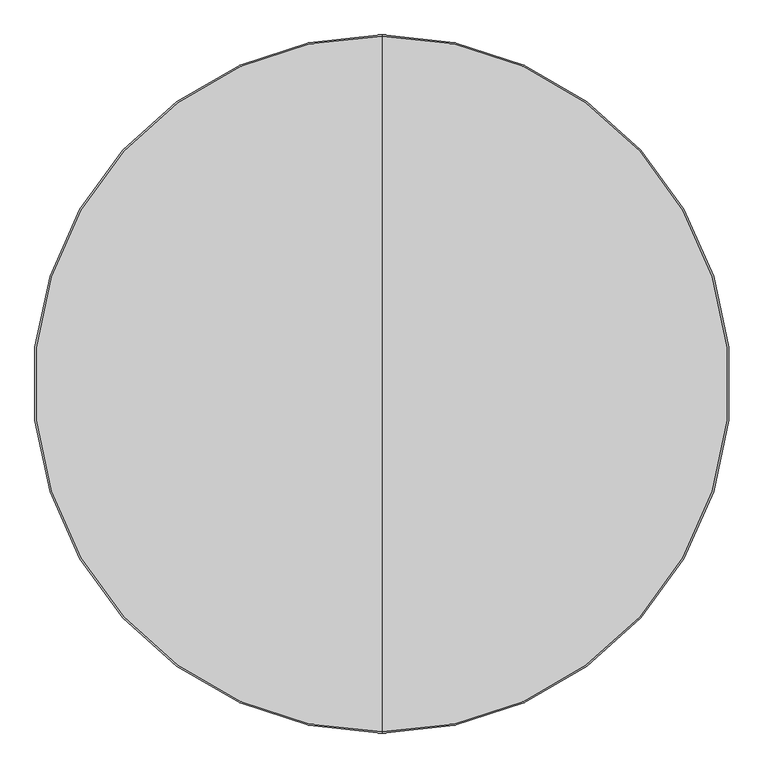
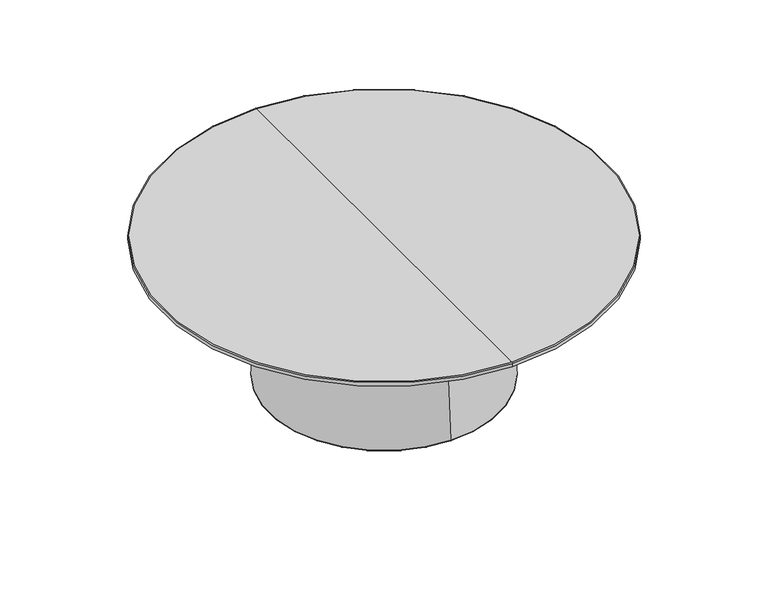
"""IFC4 building model written with IfcOpenShell, lengths in millimetres: furniture geometry, Fredericia - Niveau Coffee Table Ø110 - 6811 : Fredericia - Niveau Coffee Table Ø110 - 6811."""

from ifc_helpers import new_model, si_unit, point, frame, origin, origin_2d, place, context, project, spatial, polyline, circle_curve, ellipse_curve, trimmed, segment, composite_curve, outline, extrude, source, transform, mapped, element, save
from ifc_brep_helpers import plane_surface, cylinder_surface, revolved_surface, advanced_brep


def furniture_b57356bb(model_context):
    return source(origin(), model_context, "Body", "SolidModel", [
        extrude(outline(composite_curve([segment(trimmed(circle_curve(origin_2d(), 300.0), [point((-300.0, 0.0))], [point((300.0, 0.0))], False, "CARTESIAN"), True, "CONTINUOUS"), segment(trimmed(circle_curve(origin_2d(), 300.0), [point((300.0, 0.0))], [point((-300.0, 0.0))], False, "CARTESIAN"), True, "CONTINUOUS")], self_intersect=False)), frame((0.0, 0.0, 351.8), z_axis=(0.0, 0.0, 1.0), x_axis=(1.0, 0.0, 0.0)), (0.0, 0.0, 1.0), 5.0),
        advanced_brep(
        [(0.0, -271.4422915, 2.4564436), (0.0, 271.4422915, 2.4564436), (0.0, 270.6035022, 2.2), (0.0, -270.6035022, 2.2), (0.0, -284.9166947, 11.5450434), (0.0, 284.9166947, 11.5450434), (0.0, -285.793704, 13.3387594), (0.0, 285.793704, 13.3387594), (0.0, -269.1134362, 258.7199826), (0.0, 269.1134362, 258.7199826), (0.0, 214.2419305, 2.2), (0.0, -214.2419305, 2.2), (0.0, -268.4802606, 277.3706032), (0.0, 268.4802606, 277.3706032), (0.0, -268.4802606, 351.8), (0.0, 268.4802606, 351.8), (0.0, -196.1713082, 351.8), (0.0, 196.1713082, 351.8), (0.0, -196.1713082, 277.3706032), (0.0, 196.1713082, 277.3706032), (0.0, -196.8044838, 258.7199826), (0.0, 196.8044838, 258.7199826)],
        [
            (0, 1, circle_curve(frame((0.0, 0.0, 2.4564436), z_axis=(0.0, 0.0, -1.0), x_axis=(0.0, 1.0, 0.0)), 271.4422915)),
            (1, 2, circle_curve(frame((0.0, 270.6035022, 3.7), z_axis=(-1.0, 0.0, 0.0), x_axis=(0.0, -1.0, 0.0)), 1.5)),
            (2, 3, circle_curve(frame((0.0, 0.0, 2.2), z_axis=(0.0, 0.0, 1.0), x_axis=(0.0, 1.0, 0.0)), 270.6035022)),
            (3, 0, circle_curve(frame((0.0, -270.6035022, 3.7), z_axis=(-1.0, 0.0, 0.0), x_axis=(0.0, 1.0, 0.0)), 1.5)),
            (1, 0, circle_curve(frame((0.0, 0.0, 2.4564436), z_axis=(0.0, 0.0, -1.0), x_axis=(0.0, 1.0, 0.0)), 271.4422915)),
            (3, 2, circle_curve(frame((0.0, 0.0, 2.2), z_axis=(0.0, 0.0, 1.0), x_axis=(0.0, 1.0, 0.0)), 270.6035022)),
            (4, 5, circle_curve(frame((0.0, 0.0, 11.5450434), z_axis=(0.0, 0.0, -1.0), x_axis=(0.0, 1.0, 0.0)), 284.9166947)),
            (5, 1),
            (0, 4),
            (5, 4, circle_curve(frame((0.0, 0.0, 11.5450434), z_axis=(0.0, 0.0, -1.0), x_axis=(0.0, 1.0, 0.0)), 284.9166947)),
            (6, 7, circle_curve(frame((0.0, 0.0, 13.3387594), z_axis=(0.0, 0.0, -1.0), x_axis=(0.0, 1.0, 0.0)), 285.793704)),
            (7, 5, circle_curve(frame((0.0, 283.7983089, 13.2031185), z_axis=(-1.0, 0.0, 0.0), x_axis=(0.0, -1.0, 0.0)), 2.0)),
            (4, 6, circle_curve(frame((0.0, -283.7983089, 13.2031185), z_axis=(-1.0, 0.0, 0.0), x_axis=(0.0, 1.0, 0.0)), 2.0)),
            (7, 6, circle_curve(frame((0.0, 0.0, 13.3387594), z_axis=(0.0, 0.0, -1.0), x_axis=(0.0, 1.0, 0.0)), 285.793704)),
            (8, 9, circle_curve(frame((0.0, 0.0, 258.7199826), z_axis=(0.0, 0.0, -1.0), x_axis=(0.0, 1.0, 0.0)), 269.1134362)),
            (9, 7),
            (6, 8),
            (9, 8, circle_curve(frame((0.0, 0.0, 258.7199826), z_axis=(0.0, 0.0, -1.0), x_axis=(0.0, 1.0, 0.0)), 269.1134362)),
            (2, 10),
            (10, 11, circle_curve(frame((0.0, 0.0, 2.2), z_axis=(0.0, 0.0, 1.0), x_axis=(0.0, 1.0, 0.0)), 214.2419305)),
            (11, 3),
            (11, 10, circle_curve(frame((0.0, 0.0, 2.2), z_axis=(0.0, 0.0, 1.0), x_axis=(0.0, 1.0, 0.0)), 214.2419305)),
            (12, 13, circle_curve(frame((0.0, 0.0, 277.3706032), z_axis=(0.0, 0.0, -1.0), x_axis=(0.0, 1.0, 0.0)), 268.4802606)),
            (13, 9, circle_curve(frame((0.0, 543.4802606, 277.3706032), z_axis=(1.0, 0.0, 0.0), x_axis=(0.0, -1.0, 0.0)), 275.0)),
            (8, 12, circle_curve(frame((0.0, -543.4802606, 277.3706032), z_axis=(1.0, 0.0, 0.0), x_axis=(0.0, 1.0, 0.0)), 275.0)),
            (13, 12, circle_curve(frame((0.0, 0.0, 277.3706032), z_axis=(0.0, 0.0, -1.0), x_axis=(0.0, 1.0, 0.0)), 268.4802606)),
            (14, 15, circle_curve(frame((0.0, 0.0, 351.8), z_axis=(0.0, 0.0, -1.0), x_axis=(0.0, 1.0, 0.0)), 268.4802606)),
            (15, 13),
            (12, 14),
            (15, 14, circle_curve(frame((0.0, 0.0, 351.8), z_axis=(0.0, 0.0, -1.0), x_axis=(0.0, 1.0, 0.0)), 268.4802606)),
            (16, 17, circle_curve(frame((0.0, 0.0, 351.8), z_axis=(0.0, 0.0, -1.0), x_axis=(0.0, 1.0, 0.0)), 196.1713082)),
            (17, 15),
            (14, 16),
            (17, 16, circle_curve(frame((0.0, 0.0, 351.8), z_axis=(0.0, 0.0, -1.0), x_axis=(0.0, 1.0, 0.0)), 196.1713082)),
            (18, 19, circle_curve(frame((0.0, 0.0, 277.3706032), z_axis=(0.0, 0.0, -1.0), x_axis=(0.0, 1.0, 0.0)), 196.1713082)),
            (19, 17),
            (16, 18),
            (19, 18, circle_curve(frame((0.0, 0.0, 277.3706032), z_axis=(0.0, 0.0, -1.0), x_axis=(0.0, 1.0, 0.0)), 196.1713082)),
            (20, 21, circle_curve(frame((0.0, 0.0, 258.7199826), z_axis=(0.0, 0.0, -1.0), x_axis=(0.0, 1.0, 0.0)), 196.8044838)),
            (21, 19, circle_curve(frame((0.0, 471.1713082, 277.3706032), z_axis=(-1.0, 0.0, 0.0), x_axis=(0.0, -1.0, 0.0)), 275.0)),
            (18, 20, circle_curve(frame((0.0, -471.1713082, 277.3706032), z_axis=(-1.0, 0.0, 0.0), x_axis=(0.0, 1.0, 0.0)), 275.0)),
            (21, 20, circle_curve(frame((0.0, 0.0, 258.7199826), z_axis=(0.0, 0.0, -1.0), x_axis=(0.0, 1.0, 0.0)), 196.8044838)),
            (10, 21),
            (20, 11),
        ],
        [
            revolved_surface(trimmed(ellipse_curve(frame((0.0, 270.6035022, 3.7), z_axis=(1.0, 0.0, 0.0), x_axis=(0.0, -1.0, 0.0)), 1.5, 1.5), [point((0.0, 270.6035022, 2.2))], [point((0.0, 271.4422915, 2.4564436))], True, "CARTESIAN"), (0.0, 0.0, 320.0), (0.0, 0.0, 1.0)),
            revolved_surface(polyline([(0.0, 271.4422915, 2.4564436), (0.0, 284.9166947, 11.5450434)]), (0.0, 0.0, 320.0), (0.0, 0.0, 1.0)),
            revolved_surface(trimmed(ellipse_curve(frame((0.0, 283.7983089, 13.2031185), z_axis=(1.0, 0.0, 0.0), x_axis=(0.0, -1.0, 0.0)), 2.0, 2.0), [point((0.0, 284.9166947, 11.5450434))], [point((0.0, 285.793704, 13.3387594))], True, "CARTESIAN"), (0.0, 0.0, 320.0), (0.0, 0.0, 1.0)),
            revolved_surface(polyline([(0.0, 285.793704, 13.3387594), (0.0, 269.1134362, 258.7199826)]), (0.0, 0.0, 320.0), (0.0, 0.0, 1.0)),
            plane_surface(frame((0.0, 0.0, 2.2), z_axis=(0.0, 0.0, -1.0), x_axis=(0.0, 1.0, 0.0))),
            revolved_surface(trimmed(ellipse_curve(frame((0.0, 543.4802606, 277.3706032), z_axis=(-1.0, 0.0, 0.0), x_axis=(0.0, -1.0, 0.0)), 275.0, 275.0), [point((0.0, 269.1134362, 258.7199826))], [point((0.0, 268.4802606, 277.3706032))], True, "CARTESIAN"), (0.0, 0.0, 320.0), (0.0, 0.0, 1.0)),
            cylinder_surface(frame((0.0, 0.0, 320.0), z_axis=(0.0, 0.0, 1.0), x_axis=(0.0, 1.0, 0.0)), 268.4802606),
            plane_surface(frame((0.0, 0.0, 351.8), z_axis=(0.0, 0.0, 1.0), x_axis=(0.0, 1.0, 0.0))),
            revolved_surface(polyline([(0.0, 196.1713082, 351.8), (0.0, 196.1713082, 277.3706032)]), (0.0, 0.0, 320.0), (0.0, 0.0, 1.0)),
            revolved_surface(trimmed(ellipse_curve(frame((0.0, 471.1713082, 277.3706032), z_axis=(1.0, 0.0, 0.0), x_axis=(0.0, -1.0, 0.0)), 275.0, 275.0), [point((0.0, 196.1713082, 277.3706032))], [point((0.0, 196.8044838, 258.7199826))], True, "CARTESIAN"), (0.0, 0.0, 320.0), (0.0, 0.0, 1.0)),
            revolved_surface(polyline([(0.0, 196.8044838, 258.7199826), (0.0, 214.2419305, 2.2)]), (0.0, 0.0, 320.0), (0.0, 0.0, 1.0)),
        ],
        [
            (0, [[1, 2, 3, 4]]),
            (0, [[5, -4, 6, -2]]),
            (1, [[7, 8, -1, 9]]),
            (1, [[10, -9, -5, -8]]),
            (2, [[11, 12, -7, 13]]),
            (2, [[14, -13, -10, -12]]),
            (3, [[15, 16, -11, 17]]),
            (3, [[18, -17, -14, -16]]),
            (4, [[-3, 19, 20, 21]]),
            (4, [[-6, -21, 22, -19]]),
            (5, [[23, 24, -15, 25]]),
            (5, [[26, -25, -18, -24]]),
            (6, [[27, 28, -23, 29]]),
            (6, [[30, -29, -26, -28]]),
            (7, [[31, 32, -27, 33]]),
            (7, [[34, -33, -30, -32]]),
            (8, [[35, 36, -31, 37]]),
            (8, [[38, -37, -34, -36]]),
            (9, [[39, 40, -35, 41]]),
            (9, [[42, -41, -38, -40]]),
            (10, [[-20, 43, -39, 44]]),
            (10, [[-22, -44, -42, -43]]),
        ],
    ),
        advanced_brep(
        [(0.0, -514.3947272, 356.8), (0.0, 514.3947272, 356.8), (0.0, 0.0, 356.8), (0.0, -550.0, 366.8), (0.0, 550.0, 366.8), (0.0, -550.0, 374.8), (0.0, 550.0, 374.8), (0.0, -548.0, 376.8), (0.0, 548.0, 376.8), (0.0, 0.0, 376.8)],
        [
            (0, 1, circle_curve(frame((0.0, 0.0, 356.8), z_axis=(0.0, 0.0, -1.0), x_axis=(0.0, 1.0, 0.0)), 514.3947272)),
            (1, 2),
            (2, 0),
            (1, 0, circle_curve(frame((0.0, 0.0, 356.8), z_axis=(0.0, 0.0, -1.0), x_axis=(0.0, 1.0, 0.0)), 514.3947272)),
            (3, 4, circle_curve(frame((0.0, 0.0, 366.8), z_axis=(0.0, 0.0, -1.0), x_axis=(0.0, 1.0, 0.0)), 550.0)),
            (4, 1),
            (0, 3),
            (4, 3, circle_curve(frame((0.0, 0.0, 366.8), z_axis=(0.0, 0.0, -1.0), x_axis=(0.0, 1.0, 0.0)), 550.0)),
            (5, 6, circle_curve(frame((0.0, 0.0, 374.8), z_axis=(0.0, 0.0, -1.0), x_axis=(0.0, 1.0, 0.0)), 550.0)),
            (6, 4),
            (3, 5),
            (6, 5, circle_curve(frame((0.0, 0.0, 374.8), z_axis=(0.0, 0.0, -1.0), x_axis=(0.0, 1.0, 0.0)), 550.0)),
            (7, 8, circle_curve(frame((0.0, 0.0, 376.8), z_axis=(0.0, 0.0, -1.0), x_axis=(0.0, 1.0, 0.0)), 548.0)),
            (8, 6, circle_curve(frame((0.0, 548.0, 374.8), z_axis=(-1.0, 0.0, 0.0), x_axis=(0.0, -1.0, 0.0)), 2.0)),
            (5, 7, circle_curve(frame((0.0, -548.0, 374.8), z_axis=(-1.0, 0.0, 0.0), x_axis=(0.0, 1.0, 0.0)), 2.0)),
            (8, 7, circle_curve(frame((0.0, 0.0, 376.8), z_axis=(0.0, 0.0, -1.0), x_axis=(0.0, 1.0, 0.0)), 548.0)),
            (9, 8),
            (7, 9),
        ],
        [
            plane_surface(frame((0.0, 0.0, 356.8), z_axis=(0.0, 0.0, -1.0), x_axis=(0.0, 1.0, 0.0))),
            revolved_surface(polyline([(0.0, 514.3947272, 356.8), (0.0, 550.0, 366.8)]), (0.0, 0.0, 408.6289604), (0.0, 0.0, 1.0)),
            cylinder_surface(frame((0.0, 0.0, 408.6289604), z_axis=(0.0, 0.0, 1.0), x_axis=(0.0, 1.0, 0.0)), 550.0),
            revolved_surface(trimmed(ellipse_curve(frame((0.0, 548.0, 374.8), z_axis=(1.0, 0.0, 0.0), x_axis=(0.0, -1.0, 0.0)), 2.0, 2.0), [point((0.0, 550.0, 374.8))], [point((0.0, 548.0, 376.8))], True, "CARTESIAN"), (0.0, 0.0, 408.6289604), (0.0, 0.0, 1.0)),
            plane_surface(frame((0.0, 0.0, 376.8), z_axis=(0.0, 0.0, 1.0), x_axis=(0.0, 1.0, 0.0))),
        ],
        [
            (0, [[1, 2, 3]]),
            (0, [[4, -3, -2]]),
            (1, [[5, 6, -1, 7]]),
            (1, [[8, -7, -4, -6]]),
            (2, [[9, 10, -5, 11]]),
            (2, [[12, -11, -8, -10]]),
            (3, [[13, 14, -9, 15]]),
            (3, [[16, -15, -12, -14]]),
            (4, [[17, -13, 18]]),
            (4, [[-18, -16, -17]]),
        ],
    ),
    ])


if __name__ == "__main__":
    model = new_model("IFC4")
    model_context = context("Model", 3, world=origin())
    ifc_project = project(units=[si_unit("LENGTHUNIT", "METRE", prefix="MILLI")], contexts=[model_context])
    site = spatial("IfcSite", under=ifc_project)
    building = spatial("IfcBuilding", under=site)
    placement = place(None, origin())
    furniture_shape = furniture_b57356bb(model_context)
    element("IfcFurniture", 1, ObjectType="Fredericia - Niveau Coffee Table Ø110 - 6811 : Fredericia - Niveau Coffee Table Ø110 - 6811", at=placement, inside=building, context=model_context, shape_type="MappedRepresentation", body=[
        mapped(furniture_shape, transform((0.0, 0.0, 0.0), x_axis=(1.0, 0.0, 0.0), y_axis=(0.0, 1.0, 0.0), z_axis=(0.0, 0.0, 1.0))),
    ])
    save(model, "model.ifc")
